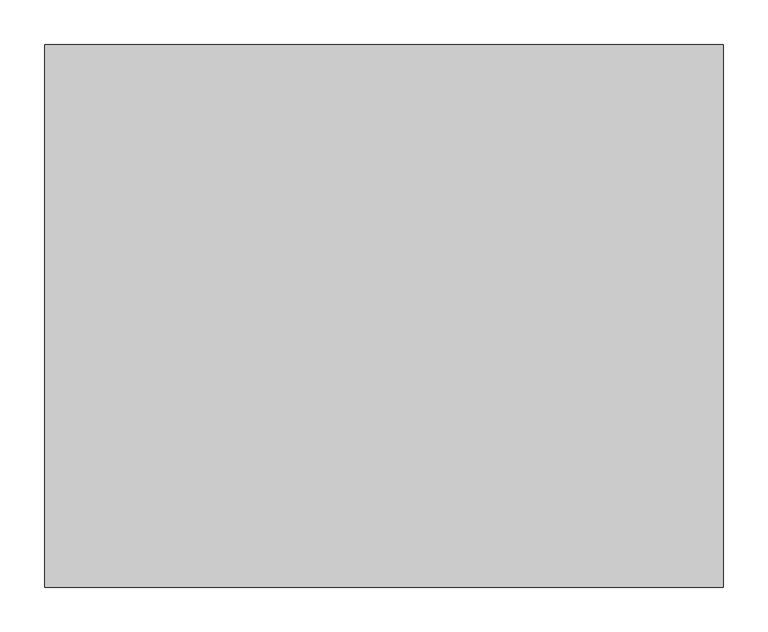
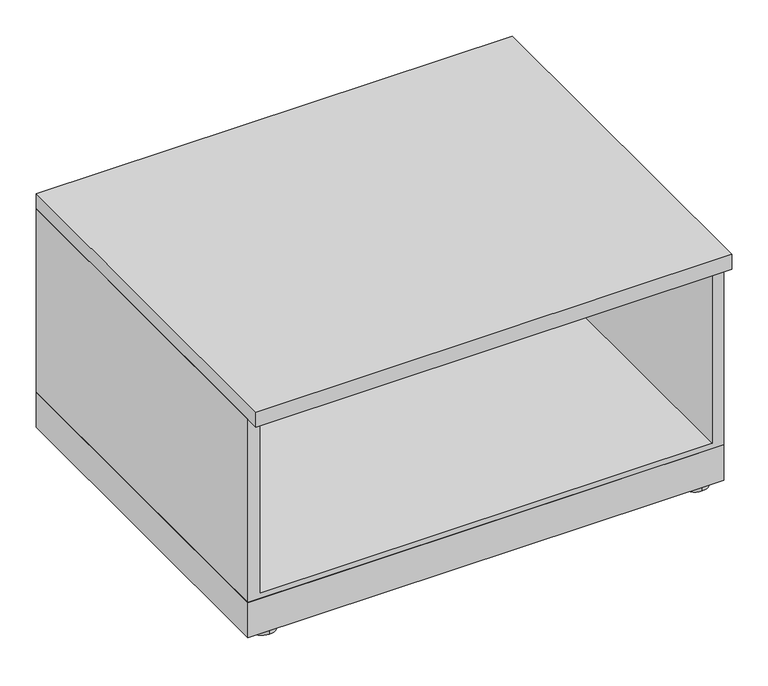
"""IFC4 building model written with IfcOpenShell, lengths in millimetres: furniture geometry, Steelcase - Universal Storage - Lateral File - 1 High - Proud Front : Open - 24D x 30W."""

from ifc_helpers import new_model, si_unit, point, frame, frame_2d, origin, origin_with_axes, place, context, project, spatial, polyline, circle_curve, trimmed, segment, composite_curve, outline, extrude, source, transform, mapped, element, save


def furniture_fdba58cf(model_context):
    return source(origin(), model_context, "Body", "SweptSolid", [
        extrude(outline(polyline([(762.0, 0.0), (762.0, -587.502), (0.0, -587.502), (0.0, 0.0), (762.0, 0.0)])), frame((0.0, 0.0, 6.3500002), z_axis=(0.0, 0.0, 1.0), x_axis=(1.0, 0.0, 0.0)), (0.0, 0.0, 1.0), 59.6899998),
        extrude(outline(composite_curve([segment(trimmed(circle_curve(frame_2d((727.3290058, -22.3366334)), 20.32), [point((727.3290058, -42.6566334))], [point((727.3290058, -2.0166334))], False, "CARTESIAN"), True, "CONTINUOUS"), segment(trimmed(circle_curve(frame_2d((727.3290058, -22.3366334)), 20.32), [point((727.3290058, -2.0166334))], [point((727.3290058, -42.6566334))], False, "CARTESIAN"), True, "CONTINUOUS")], self_intersect=False)), origin_with_axes(), (0.0, 0.0, 1.0), 6.3500002),
        extrude(outline(composite_curve([segment(trimmed(circle_curve(frame_2d((727.3290058, -566.7528545)), 20.32), [point((727.3290058, -587.0728545))], [point((727.3290058, -546.4328545))], False, "CARTESIAN"), True, "CONTINUOUS"), segment(trimmed(circle_curve(frame_2d((727.3290058, -566.7528545)), 20.32), [point((727.3290058, -546.4328545))], [point((727.3290058, -587.0728545))], False, "CARTESIAN"), True, "CONTINUOUS")], self_intersect=False)), origin_with_axes(), (0.0, 0.0, 1.0), 6.3500002),
        extrude(outline(composite_curve([segment(trimmed(circle_curve(frame_2d((34.29, -22.3366334)), 20.32), [point((34.29, -2.0166334))], [point((34.29, -42.6566334))], False, "CARTESIAN"), True, "CONTINUOUS"), segment(trimmed(circle_curve(frame_2d((34.29, -22.3366334)), 20.32), [point((34.29, -42.6566334))], [point((34.29, -2.0166334))], False, "CARTESIAN"), True, "CONTINUOUS")], self_intersect=False)), origin_with_axes(), (0.0, 0.0, 1.0), 6.3500002),
        extrude(outline(composite_curve([segment(trimmed(circle_curve(frame_2d((34.29, -566.7528545)), 20.32), [point((34.29, -546.4328545))], [point((34.29, -587.0728545))], False, "CARTESIAN"), True, "CONTINUOUS"), segment(trimmed(circle_curve(frame_2d((34.29, -566.7528545)), 20.32), [point((34.29, -587.0728545))], [point((34.29, -546.4328545))], False, "CARTESIAN"), True, "CONTINUOUS")], self_intersect=False)), origin_with_axes(), (0.0, 0.0, 1.0), 6.3500002),
        extrude(outline(polyline([(376.301, 19.05), (376.301, 0.0), (66.04, 0.0), (66.04, 762.0), (376.301, 762.0), (376.301, 742.95), (75.184001, 742.95), (75.184001, 19.05), (376.301, 19.05)])), frame((0.0, -587.3750121, 0.0), z_axis=(0.0, 1.0, 0.0), x_axis=(0.0, 0.0, 1.0)), (0.0, 0.0, 1.0), 587.3750121),
        extrude(outline(polyline([(742.95, 0.0), (742.95, -3.9370001), (19.05, -3.9370001), (19.05, 0.0), (742.95, 0.0)])), frame((0.0, 0.0, 75.184001), z_axis=(0.0, 0.0, 1.0), x_axis=(1.0, 0.0, 0.0)), (0.0, 0.0, 1.0), 301.116999),
        extrude(outline(polyline([(762.0, 0.0), (762.0, -609.6), (0.0, -609.6), (0.0, 0.0), (762.0, 0.0)])), frame((0.0, 0.0, 376.301), z_axis=(0.0, 0.0, 1.0), x_axis=(1.0, 0.0, 0.0)), (0.0, 0.0, 1.0), 25.3999893),
    ])


if __name__ == "__main__":
    model = new_model("IFC4")
    model_context = context("Model", 3, world=origin())
    ifc_project = project(units=[si_unit("LENGTHUNIT", "METRE", prefix="MILLI")], contexts=[model_context])
    site = spatial("IfcSite", under=ifc_project)
    building = spatial("IfcBuilding", under=site)
    placement = place(None, origin())
    furniture_shape = furniture_fdba58cf(model_context)
    element("IfcFurniture", 1, ObjectType="Steelcase - Universal Storage - Lateral File - 1 High - Proud Front : Open - 24D x 30W", at=placement, inside=building, context=model_context, shape_type="MappedRepresentation", body=[
        mapped(furniture_shape, transform((0.0, 0.0, 0.0), x_axis=(1.0, 0.0, 0.0), y_axis=(0.0, 1.0, 0.0), z_axis=(0.0, 0.0, 1.0))),
    ])
    save(model, "model.ifc")
